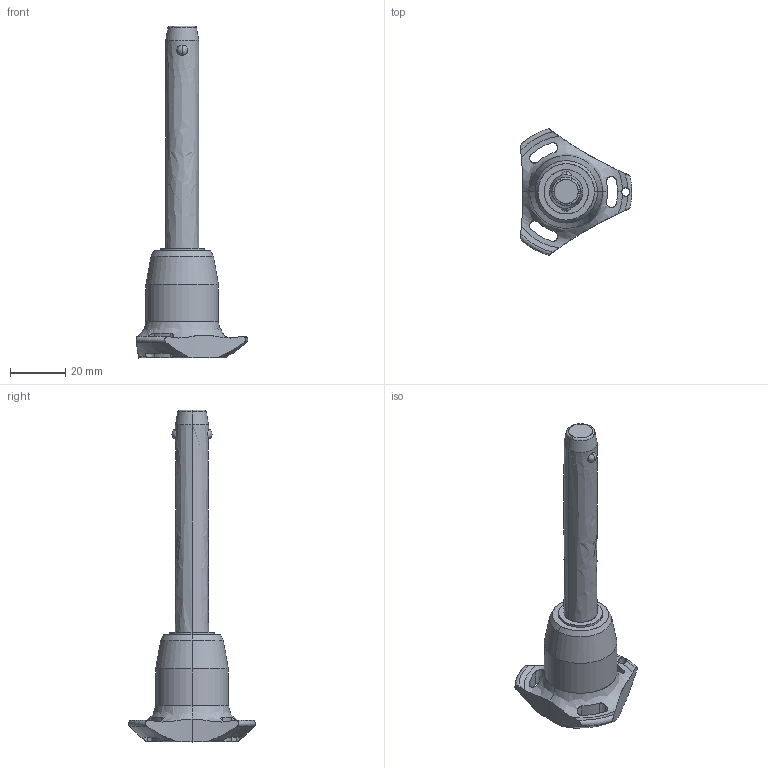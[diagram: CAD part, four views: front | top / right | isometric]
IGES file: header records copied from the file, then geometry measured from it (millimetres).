
Start section: SolidWorks IGES file using analytic representation for surfaces
Global section: file name: C:\Users\ianosborn\Desktop\QR1734_v2\QR1734_v2_20251113_IGES\QR1734.M12-070-S.igs; native system: SolidWorks 2019; preprocessor: SolidWorks 2019; author: IanOsborn; date: 251112.143218; units: millimetre
Bounding box: 40.5 x 45.88 x 120.3 mm (x, y, z)
Surface area: 8976.5 mm2 (no closed solid volume)
Topology: 0 solids, 0 shells, 65 faces, 1363 edges, 1359 vertices
Faces by surface type: revolution 50, bspline 15
